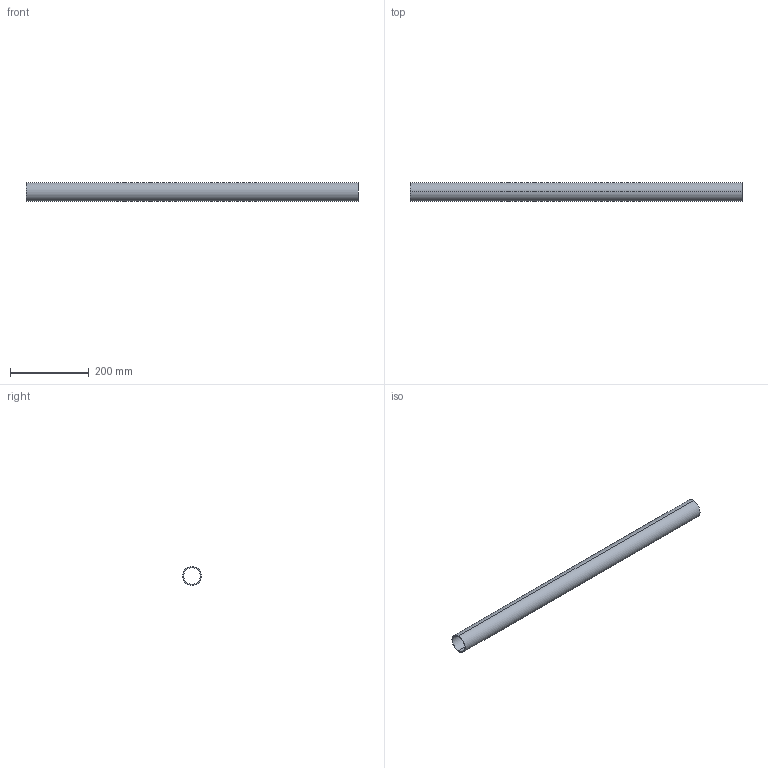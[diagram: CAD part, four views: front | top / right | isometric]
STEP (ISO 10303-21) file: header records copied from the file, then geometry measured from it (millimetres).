
FILE_DESCRIPTION (( 'STEP AP214' ), '1' );
FILE_NAME ('CCJ029-REP.315 - MAIN COURANTE PLATEFORME INFERIEURE C3-C4.STEP', '2024-01-31T09:59:20', ( '' ), ( '' ), 'SwSTEP 2.0', 'SolidWorks 2021', '' );
FILE_SCHEMA (( 'AUTOMOTIVE_DESIGN' ));
Length unit declared in the file: millimetre
Products named in the file (1): CCJ029-REP.315 - MAIN COURANTE PLATEFORME INFERIEURE C3-C4
Bounding box: 845 x 48.3 x 48.3 mm (x, y, z)
Volume: 303956.9 mm3; surface area: 243885 mm2
Topology: 1 solids, 1 shells, 6 faces, 12 edges, 8 vertices
Faces by surface type: cylinder 4, plane 2
Entity records: 202 total; most frequent: DIRECTION 34, CARTESIAN_POINT 27, ORIENTED_EDGE 24, AXIS2_PLACEMENT_3D 15, EDGE_CURVE 12, EDGE_LOOP 8, VERTEX_POINT 8, CIRCLE 8
